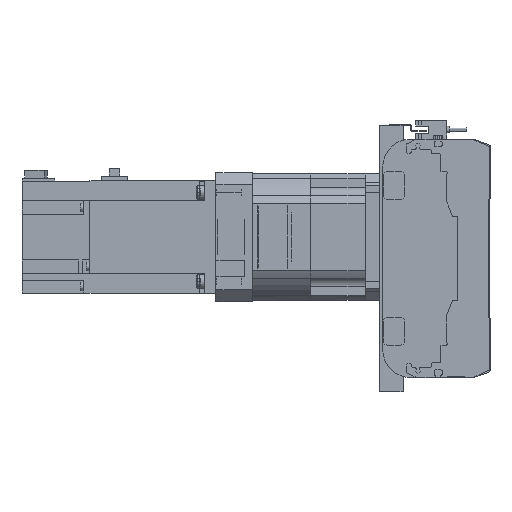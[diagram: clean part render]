
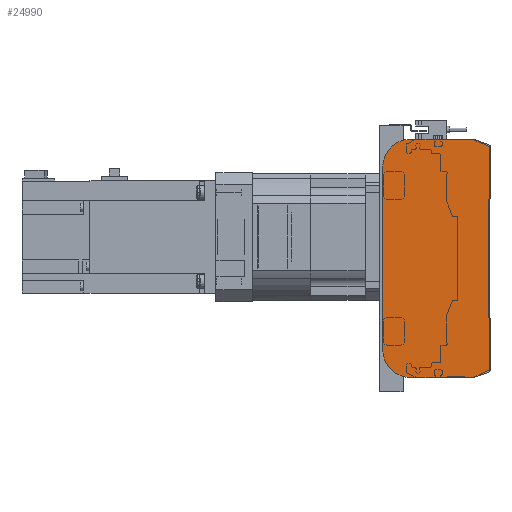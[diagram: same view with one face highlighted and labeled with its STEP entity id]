
A CAD part, left-side view. The second image highlights one B-rep face of the part: STEP entity #24990.
In plain terms, the highlighted planar face has unit normal (-1, 0, 0).
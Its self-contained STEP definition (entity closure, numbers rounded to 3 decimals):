
#1930=CIRCLE('',#27345,2.);
#1931=CIRCLE('',#27348,2.);
#1932=CIRCLE('',#27351,20.);
#1933=CIRCLE('',#27354,20.);
#7187=ORIENTED_EDGE('',*,*,#11957,.F.);
#7188=ORIENTED_EDGE('',*,*,#12035,.F.);
#7189=ORIENTED_EDGE('',*,*,#12033,.F.);
#7190=ORIENTED_EDGE('',*,*,#12031,.F.);
#7191=ORIENTED_EDGE('',*,*,#11729,.F.);
#7192=ORIENTED_EDGE('',*,*,#12030,.F.);
#7193=ORIENTED_EDGE('',*,*,#12028,.F.);
#7194=ORIENTED_EDGE('',*,*,#12026,.F.);
#7195=ORIENTED_EDGE('',*,*,#12024,.F.);
#7196=ORIENTED_EDGE('',*,*,#12022,.F.);
#11729=EDGE_CURVE('',#14469,#14470,#16585,.T.);
#11957=EDGE_CURVE('',#14541,#14542,#16699,.T.);
#12022=EDGE_CURVE('',#14542,#14583,#16744,.T.);
#12024=EDGE_CURVE('',#14583,#14584,#1930,.T.);
#12026=EDGE_CURVE('',#14584,#14585,#16747,.T.);
#12028=EDGE_CURVE('',#14585,#14586,#1931,.T.);
#12030=EDGE_CURVE('',#14586,#14469,#16750,.T.);
#12031=EDGE_CURVE('',#14470,#14587,#1932,.T.);
#12033=EDGE_CURVE('',#14587,#14588,#16752,.T.);
#12035=EDGE_CURVE('',#14588,#14541,#1933,.T.);
#14469=VERTEX_POINT('',#42185);
#14470=VERTEX_POINT('',#42187);
#14541=VERTEX_POINT('',#42538);
#14542=VERTEX_POINT('',#42540);
#14583=VERTEX_POINT('',#42670);
#14584=VERTEX_POINT('',#42674);
#14585=VERTEX_POINT('',#42678);
#14586=VERTEX_POINT('',#42682);
#14587=VERTEX_POINT('',#42688);
#14588=VERTEX_POINT('',#42692);
#16585=LINE('',#42186,#18656);
#16699=LINE('',#42539,#18770);
#16744=LINE('',#42669,#18815);
#16747=LINE('',#42677,#18818);
#16750=LINE('',#42685,#18821);
#16752=LINE('',#42691,#18823);
#18656=VECTOR('',#33117,1000.);
#18770=VECTOR('',#33565,1000.);
#18815=VECTOR('',#33698,1000.);
#18818=VECTOR('',#33707,1000.);
#18821=VECTOR('',#33716,1000.);
#18823=VECTOR('',#33724,1000.);
#20496=EDGE_LOOP('',(#7187,#7188,#7189,#7190,#7191,#7192,#7193,#7194,#7195,
#7196));
#22551=FACE_BOUND('',#20496,.T.);
#23750=PLANE('',#27356);
#24990=ADVANCED_FACE('',(#22551),#23750,.F.);
#27345=AXIS2_PLACEMENT_3D('',#42673,#33702,#33703);
#27348=AXIS2_PLACEMENT_3D('',#42681,#33711,#33712);
#27351=AXIS2_PLACEMENT_3D('',#42687,#33719,#33720);
#27354=AXIS2_PLACEMENT_3D('',#42695,#33728,#33729);
#27356=AXIS2_PLACEMENT_3D('',#42697,#33732,#33733);
#33117=DIRECTION('',(0.,1.,0.));
#33565=DIRECTION('',(0.,-1.,0.));
#33698=DIRECTION('',(0.,-0.913,-0.408));
#33702=DIRECTION('',(1.,0.,0.));
#33703=DIRECTION('',(0.,0.,-1.));
#33707=DIRECTION('',(0.,0.,-1.));
#33711=DIRECTION('',(1.,0.,0.));
#33712=DIRECTION('',(0.,0.,-1.));
#33716=DIRECTION('',(0.,0.913,-0.408));
#33719=DIRECTION('',(1.,0.,0.));
#33720=DIRECTION('',(0.,0.,-1.));
#33724=DIRECTION('',(0.,0.,1.));
#33728=DIRECTION('',(1.,0.,0.));
#33729=DIRECTION('',(0.,0.,-1.));
#33732=DIRECTION('',(1.,0.,0.));
#33733=DIRECTION('',(0.,0.,-1.));
#42185=CARTESIAN_POINT('',(0.,12.33,-85.));
#42186=CARTESIAN_POINT('',(0.,12.33,-85.));
#42187=CARTESIAN_POINT('',(0.,56.5,-85.));
#42538=CARTESIAN_POINT('',(0.,56.5,85.));
#42539=CARTESIAN_POINT('',(0.,56.5,85.));
#42540=CARTESIAN_POINT('',(0.,12.33,85.));
#42669=CARTESIAN_POINT('',(0.,12.33,85.));
#42670=CARTESIAN_POINT('',(0.,1.684,80.239));
#42673=CARTESIAN_POINT('',(0.,2.5,78.413));
#42674=CARTESIAN_POINT('',(0.,0.5,78.413));
#42677=CARTESIAN_POINT('',(0.,0.5,78.413));
#42678=CARTESIAN_POINT('',(0.,0.5,-78.413));
#42681=CARTESIAN_POINT('',(0.,2.5,-78.413));
#42682=CARTESIAN_POINT('',(0.,1.684,-80.239));
#42685=CARTESIAN_POINT('',(0.,1.684,-80.239));
#42687=CARTESIAN_POINT('',(0.,56.5,-65.));
#42688=CARTESIAN_POINT('',(0.,76.5,-65.));
#42691=CARTESIAN_POINT('',(0.,76.5,-65.));
#42692=CARTESIAN_POINT('',(0.,76.5,65.));
#42695=CARTESIAN_POINT('',(0.,56.5,65.));
#42697=CARTESIAN_POINT('',(0.,2.5,78.413));
